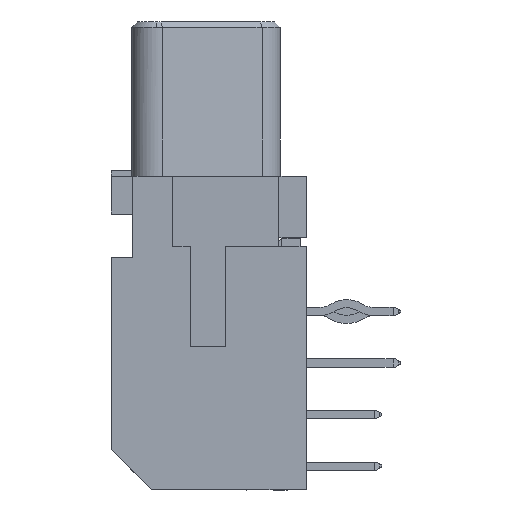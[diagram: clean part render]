
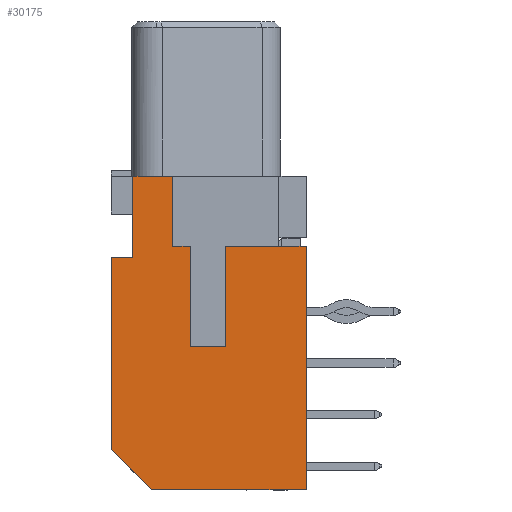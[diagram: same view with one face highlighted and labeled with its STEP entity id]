
A CAD part, left-side view. The second image highlights one B-rep face of the part: STEP entity #30175.
In plain terms, the highlighted planar face has unit normal (-1, 0, 0).
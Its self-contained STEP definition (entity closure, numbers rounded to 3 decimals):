
#3 = CARTESIAN_POINT ( 'NONE',  ( -19.54, 0., -9. ) ) ;
#265 = CARTESIAN_POINT ( 'NONE',  ( -19.54, 4.93, 0.01 ) ) ;
#328 = VECTOR ( 'NONE', #5872, 1000. ) ;
#555 = CARTESIAN_POINT ( 'NONE',  ( -19.54, 4.93, 0.01 ) ) ;
#1350 = LINE ( 'NONE', #555, #9375 ) ;
#1602 = LINE ( 'NONE', #3, #9026 ) ;
#2049 = VECTOR ( 'NONE', #38620, 1000. ) ;
#2217 = VECTOR ( 'NONE', #12293, 1000. ) ;
#2306 = EDGE_CURVE ( 'NONE', #39408, #27831, #33813, .T. ) ;
#2591 = CARTESIAN_POINT ( 'NONE',  ( -19.54, 4.93, 0.01 ) ) ;
#4652 = CARTESIAN_POINT ( 'NONE',  ( -19.54, 0., -9. ) ) ;
#5872 = DIRECTION ( 'NONE',  ( 0., 1., 0. ) ) ;
#6347 = EDGE_CURVE ( 'NONE', #27831, #12108, #37640, .T. ) ;
#8170 = EDGE_CURVE ( 'NONE', #45872, #15854, #17227, .T. ) ;
#8355 = LINE ( 'NONE', #4652, #36519 ) ;
#8367 = LINE ( 'NONE', #12726, #328 ) ;
#8522 = CARTESIAN_POINT ( 'NONE',  ( -19.54, 4.28, -3.69 ) ) ;
#9026 = VECTOR ( 'NONE', #42869, 1000. ) ;
#9375 = VECTOR ( 'NONE', #47925, 1000. ) ;
#9377 = ORIENTED_EDGE ( 'NONE', *, *, #27967, .T. ) ;
#9482 = ORIENTED_EDGE ( 'NONE', *, *, #10478, .F. ) ;
#10341 = VECTOR ( 'NONE', #19856, 1000. ) ;
#10478 = EDGE_CURVE ( 'NONE', #17331, #12323, #11962, .T. ) ;
#11711 = LINE ( 'NONE', #43106, #37398 ) ;
#11962 = LINE ( 'NONE', #40007, #26700 ) ;
#12108 = VERTEX_POINT ( 'NONE', #31093 ) ;
#12269 = EDGE_CURVE ( 'NONE', #39408, #12847, #1350, .T. ) ;
#12293 = DIRECTION ( 'NONE',  ( 0., 0., 1. ) ) ;
#12323 = VERTEX_POINT ( 'NONE', #39994 ) ;
#12559 = DIRECTION ( 'NONE',  ( 0., 0., 1. ) ) ;
#12726 = CARTESIAN_POINT ( 'NONE',  ( -19.54, 6.4, -0.4 ) ) ;
#12847 = VERTEX_POINT ( 'NONE', #40811 ) ;
#14715 = VECTOR ( 'NONE', #37423, 1000. ) ;
#14994 = CARTESIAN_POINT ( 'NONE',  ( -19.54, 4.28, -3.69 ) ) ;
#15365 = ORIENTED_EDGE ( 'NONE', *, *, #50918, .T. ) ;
#15642 = EDGE_CURVE ( 'NONE', #46620, #12847, #26808, .T. ) ;
#15794 = ORIENTED_EDGE ( 'NONE', *, *, #15642, .T. ) ;
#15854 = VERTEX_POINT ( 'NONE', #16742 ) ;
#16368 = EDGE_CURVE ( 'NONE', #45297, #12108, #11711, .T. ) ;
#16742 = CARTESIAN_POINT ( 'NONE',  ( -19.54, 7.2, -0.4 ) ) ;
#17215 = CARTESIAN_POINT ( 'NONE',  ( -19.54, 7.2, -7.5 ) ) ;
#17227 = LINE ( 'NONE', #29693, #39276 ) ;
#17331 = VERTEX_POINT ( 'NONE', #22289 ) ;
#17519 = VERTEX_POINT ( 'NONE', #39742 ) ;
#17931 = VERTEX_POINT ( 'NONE', #26356 ) ;
#18674 = ORIENTED_EDGE ( 'NONE', *, *, #45615, .F. ) ;
#18965 = EDGE_CURVE ( 'NONE', #39921, #17519, #1602, .T. ) ;
#19628 = LINE ( 'NONE', #2591, #14715 ) ;
#19856 = DIRECTION ( 'NONE',  ( 0., -0.707, -0.707 ) ) ;
#20226 = ORIENTED_EDGE ( 'NONE', *, *, #2306, .T. ) ;
#20258 = CARTESIAN_POINT ( 'NONE',  ( -19.54, 0., 2.6 ) ) ;
#20973 = ORIENTED_EDGE ( 'NONE', *, *, #12269, .F. ) ;
#21989 = DIRECTION ( 'NONE',  ( 0., 0., 1. ) ) ;
#22289 = CARTESIAN_POINT ( 'NONE',  ( -19.54, 2.98, -3.69 ) ) ;
#23383 = VECTOR ( 'NONE', #43326, 1000. ) ;
#23512 = CARTESIAN_POINT ( 'NONE',  ( -19.54, 0., -9. ) ) ;
#23687 = DIRECTION ( 'NONE',  ( 0., 0., 1. ) ) ;
#24517 = EDGE_CURVE ( 'NONE', #39921, #17931, #8355, .T. ) ;
#24648 = ORIENTED_EDGE ( 'NONE', *, *, #24517, .T. ) ;
#26356 = CARTESIAN_POINT ( 'NONE',  ( -19.54, 0., 0.01 ) ) ;
#26547 = ORIENTED_EDGE ( 'NONE', *, *, #6347, .T. ) ;
#26700 = VECTOR ( 'NONE', #32132, 1000. ) ;
#26808 = LINE ( 'NONE', #8522, #2217 ) ;
#27831 = VERTEX_POINT ( 'NONE', #38199 ) ;
#27967 = EDGE_CURVE ( 'NONE', #45872, #17519, #36109, .T. ) ;
#28085 = CARTESIAN_POINT ( 'NONE',  ( -19.54, 4.93, 0.01 ) ) ;
#29693 = CARTESIAN_POINT ( 'NONE',  ( -19.54, 7.2, -9. ) ) ;
#30175 = ADVANCED_FACE ( 'NONE', ( #38780 ), #43388, .T. ) ;
#30249 = ORIENTED_EDGE ( 'NONE', *, *, #18965, .F. ) ;
#30893 = CARTESIAN_POINT ( 'NONE',  ( -19.54, 4.28, -3.69 ) ) ;
#30990 = CARTESIAN_POINT ( 'NONE',  ( -19.54, 2.85, -11.85 ) ) ;
#31093 = CARTESIAN_POINT ( 'NONE',  ( -19.54, 6.4, 2.6 ) ) ;
#31443 = EDGE_CURVE ( 'NONE', #12323, #17931, #19628, .T. ) ;
#32132 = DIRECTION ( 'NONE',  ( 0., 0., 1. ) ) ;
#32683 = CARTESIAN_POINT ( 'NONE',  ( -19.54, 6.4, -0.4 ) ) ;
#33813 = LINE ( 'NONE', #28085, #23383 ) ;
#35579 = DIRECTION ( 'NONE',  ( 0., 0., 1. ) ) ;
#36109 = LINE ( 'NONE', #30990, #10341 ) ;
#36519 = VECTOR ( 'NONE', #12559, 1000. ) ;
#37062 = ORIENTED_EDGE ( 'NONE', *, *, #31443, .F. ) ;
#37398 = VECTOR ( 'NONE', #35579, 1000. ) ;
#37423 = DIRECTION ( 'NONE',  ( 0., -1., 0. ) ) ;
#37633 = LINE ( 'NONE', #14994, #2049 ) ;
#37640 = LINE ( 'NONE', #20258, #49995 ) ;
#37688 = ORIENTED_EDGE ( 'NONE', *, *, #8170, .F. ) ;
#38199 = CARTESIAN_POINT ( 'NONE',  ( -19.54, 4.93, 2.6 ) ) ;
#38620 = DIRECTION ( 'NONE',  ( 0., -1., 0. ) ) ;
#38780 = FACE_OUTER_BOUND ( 'NONE', #39600, .T. ) ;
#39276 = VECTOR ( 'NONE', #21989, 1000. ) ;
#39408 = VERTEX_POINT ( 'NONE', #265 ) ;
#39600 = EDGE_LOOP ( 'NONE', ( #15365, #37688, #9377, #30249, #24648, #37062, #9482, #18674, #15794, #20973, #20226, #26547, #50095 ) ) ;
#39742 = CARTESIAN_POINT ( 'NONE',  ( -19.54, 5.7, -9. ) ) ;
#39921 = VERTEX_POINT ( 'NONE', #42413 ) ;
#39994 = CARTESIAN_POINT ( 'NONE',  ( -19.54, 2.98, 0.01 ) ) ;
#40007 = CARTESIAN_POINT ( 'NONE',  ( -19.54, 2.98, -3.69 ) ) ;
#40811 = CARTESIAN_POINT ( 'NONE',  ( -19.54, 4.28, 0.01 ) ) ;
#42413 = CARTESIAN_POINT ( 'NONE',  ( -19.54, 0., -9. ) ) ;
#42869 = DIRECTION ( 'NONE',  ( 0., 1., 0. ) ) ;
#43106 = CARTESIAN_POINT ( 'NONE',  ( -19.54, 6.4, 2.6 ) ) ;
#43207 = DIRECTION ( 'NONE',  ( -1., 0., 0. ) ) ;
#43326 = DIRECTION ( 'NONE',  ( 0., 0., 1. ) ) ;
#43388 = PLANE ( 'NONE',  #44507 ) ;
#44507 = AXIS2_PLACEMENT_3D ( 'NONE', #23512, #43207, #23687 ) ;
#45297 = VERTEX_POINT ( 'NONE', #32683 ) ;
#45615 = EDGE_CURVE ( 'NONE', #46620, #17331, #37633, .T. ) ;
#45872 = VERTEX_POINT ( 'NONE', #17215 ) ;
#46620 = VERTEX_POINT ( 'NONE', #30893 ) ;
#47925 = DIRECTION ( 'NONE',  ( 0., -1., 0. ) ) ;
#49046 = DIRECTION ( 'NONE',  ( 0., 1., 0. ) ) ;
#49995 = VECTOR ( 'NONE', #49046, 1000. ) ;
#50095 = ORIENTED_EDGE ( 'NONE', *, *, #16368, .F. ) ;
#50918 = EDGE_CURVE ( 'NONE', #45297, #15854, #8367, .T. ) ;
